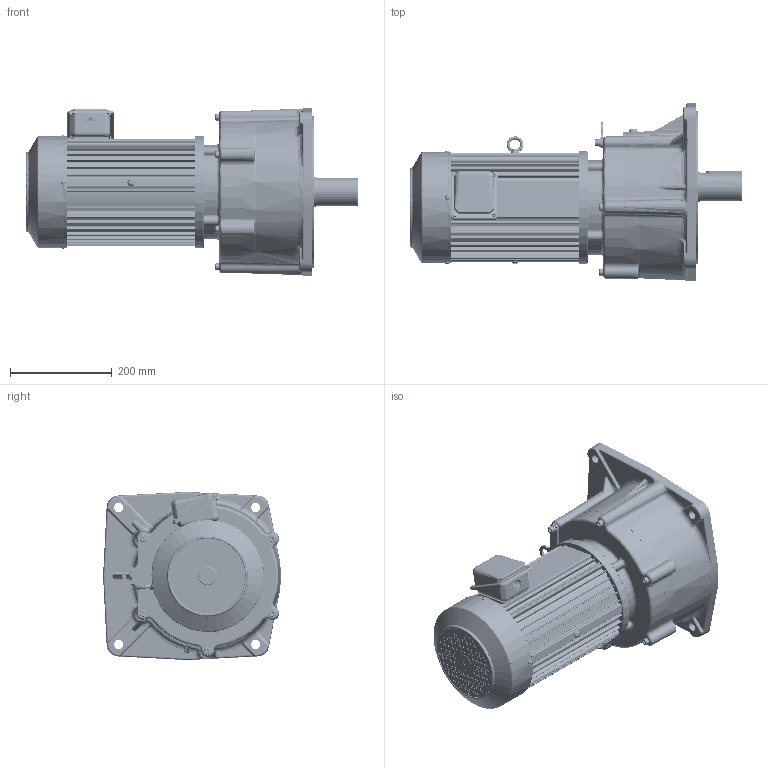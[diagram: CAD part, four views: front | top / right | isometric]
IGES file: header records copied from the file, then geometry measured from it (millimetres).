
Start section: SolidWorks IGES file using analytic representation for surfaces
Global section: file name: \\100.100.100.8\1_共有作業フォルダ\1-5_３Ｄデータ\solidworks\personal-folder\H.Nagayama\SGP1外形_075~370\P1(3D)_075~370\igs\TMF2-37E-(10~50).IGS; native system: SolidWorks 2018; preprocessor: SolidWorks 2018; author: user; date: 210309.152506; units: millimetre
Bounding box: 651 x 349 x 330 mm (x, y, z)
Surface area: 1331994.9 mm2 (no closed solid volume)
Topology: 0 solids, 0 shells, 2885 faces, 33527 edges, 33424 vertices
Faces by surface type: bspline 1478, revolution 1407
